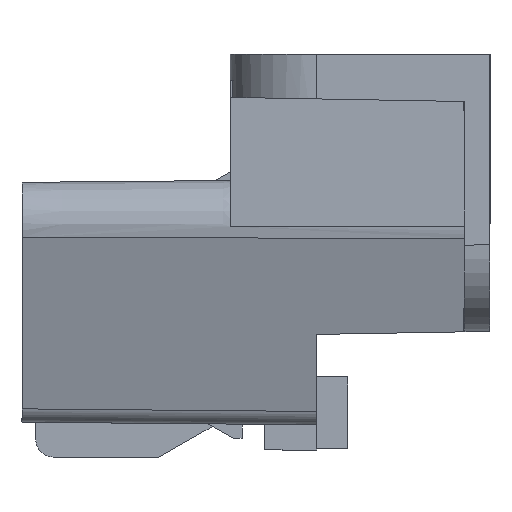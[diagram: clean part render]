
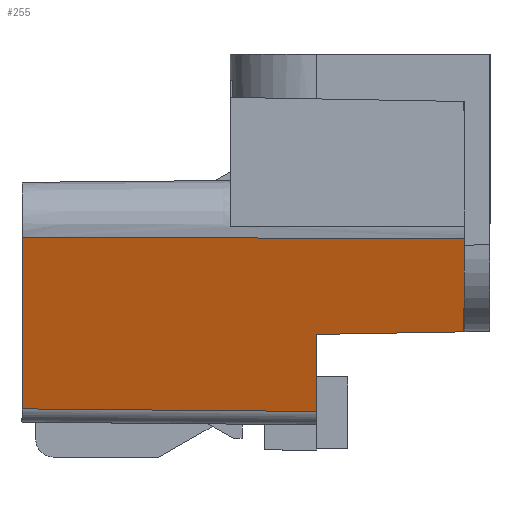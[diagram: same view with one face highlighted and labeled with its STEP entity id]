
A CAD part, left-side view. The second image highlights one B-rep face of the part: STEP entity #255.
In plain terms, the highlighted planar face has unit normal (-0.964, 0.009, -0.266).
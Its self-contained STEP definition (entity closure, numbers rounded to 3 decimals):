
#124=B_SPLINE_CURVE_WITH_KNOTS('',3,(#5100,#5101,#5102,#5103),
 .UNSPECIFIED.,.F.,.F.,(4,4),(0.,1.),.UNSPECIFIED.);
#255=ADVANCED_FACE('',(#568),#418,.F.);
#418=PLANE('',#3551);
#568=FACE_OUTER_BOUND('',#739,.T.);
#739=EDGE_LOOP('',(#1174,#1175,#1176,#1177,#1178,#1179,#1180));
#1174=ORIENTED_EDGE('',*,*,#2407,.T.);
#1175=ORIENTED_EDGE('',*,*,#2410,.F.);
#1176=ORIENTED_EDGE('',*,*,#2411,.T.);
#1177=ORIENTED_EDGE('',*,*,#2412,.F.);
#1178=ORIENTED_EDGE('',*,*,#2208,.F.);
#1179=ORIENTED_EDGE('',*,*,#2413,.T.);
#1180=ORIENTED_EDGE('',*,*,#2414,.T.);
#1891=VERTEX_POINT('',#4681);
#1892=VERTEX_POINT('',#4683);
#2049=VERTEX_POINT('',#5099);
#2050=VERTEX_POINT('',#5104);
#2052=VERTEX_POINT('',#5110);
#2053=VERTEX_POINT('',#5112);
#2054=VERTEX_POINT('',#5115);
#2208=EDGE_CURVE('',#1891,#1892,#2690,.T.);
#2407=EDGE_CURVE('',#2050,#2049,#124,.T.);
#2410=EDGE_CURVE('',#2052,#2049,#2851,.T.);
#2411=EDGE_CURVE('',#2052,#2053,#2852,.T.);
#2412=EDGE_CURVE('',#1892,#2053,#2853,.T.);
#2413=EDGE_CURVE('',#1891,#2054,#2854,.T.);
#2414=EDGE_CURVE('',#2054,#2050,#2855,.T.);
#2690=LINE('',#4682,#3108);
#2851=LINE('',#5109,#3269);
#2852=LINE('',#5111,#3270);
#2853=LINE('',#5113,#3271);
#2854=LINE('',#5114,#3272);
#2855=LINE('',#5116,#3273);
#3108=VECTOR('',#3772,1.);
#3269=VECTOR('',#4065,1.);
#3270=VECTOR('',#4066,1.);
#3271=VECTOR('',#4067,1.);
#3272=VECTOR('',#4068,1.);
#3273=VECTOR('',#4069,1.);
#3551=AXIS2_PLACEMENT_3D('',#5117,#4070,#4071);
#3772=DIRECTION('',(0.266,0.,-0.964));
#4065=DIRECTION('',(-0.266,0.,0.964));
#4066=DIRECTION('',(-0.007,-1.,-0.009));
#4067=DIRECTION('',(0.266,0.,-0.964));
#4068=DIRECTION('',(-0.014,-1.,0.017));
#4069=DIRECTION('',(-0.266,0.,0.964));
#4070=DIRECTION('',(0.964,-0.009,0.266));
#4071=DIRECTION('',(0.266,0.,-0.964));
#4681=CARTESIAN_POINT('',(-18.066,1.5,-16.175));
#4682=CARTESIAN_POINT('',(-16.655,1.5,-21.279));
#4683=CARTESIAN_POINT('',(-17.201,1.5,-19.305));
#5099=CARTESIAN_POINT('',(-19.453,18.5,-10.6));
#5100=CARTESIAN_POINT('',(-19.677,-7.,-10.622));
#5101=CARTESIAN_POINT('',(-19.603,1.5,-10.612));
#5102=CARTESIAN_POINT('',(-19.53,10.,-10.601));
#5103=CARTESIAN_POINT('',(-19.453,18.5,-10.6));
#5104=CARTESIAN_POINT('',(-19.677,-7.,-10.622));
#5109=CARTESIAN_POINT('',(-16.513,18.5,-21.24));
#5110=CARTESIAN_POINT('',(-16.725,18.5,-20.47));
#5111=CARTESIAN_POINT('',(-16.838,1.496,-20.618));
#5112=CARTESIAN_POINT('',(-16.838,1.5,-20.618));
#5113=CARTESIAN_POINT('',(-16.655,1.5,-21.279));
#5114=CARTESIAN_POINT('',(-18.201,-8.235,-16.005));
#5115=CARTESIAN_POINT('',(-18.184,-7.,-16.026));
#5116=CARTESIAN_POINT('',(-16.726,-7.,-21.299));
#5117=CARTESIAN_POINT('',(-16.655,1.501,-21.279));
